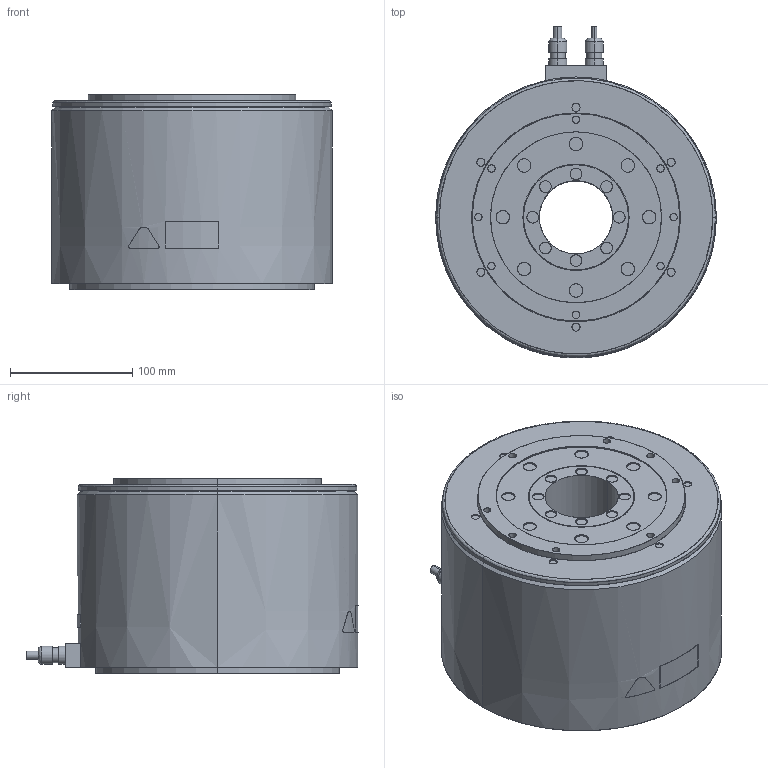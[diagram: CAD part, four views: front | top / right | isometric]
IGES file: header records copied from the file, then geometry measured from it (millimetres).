
Start section: SolidWorks IGES file using analytic representation for surfaces
Bounding box: 230 x 272.1 x 160 mm (x, y, z)
Surface area: 232210.8 mm2 (no closed solid volume)
Topology: 0 solids, 0 shells, 234 faces, 5640 edges, 5640 vertices
Faces by surface type: revolution 142, bspline 92
